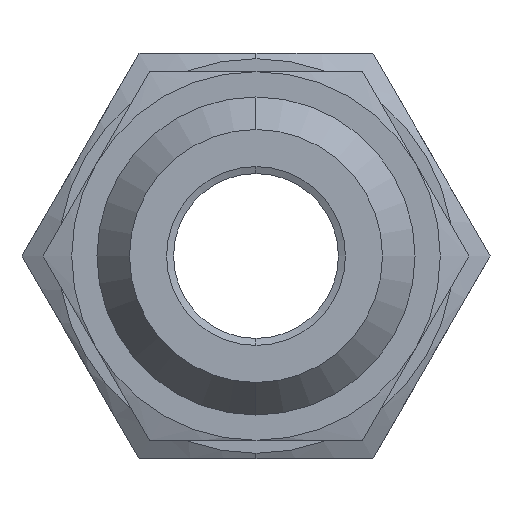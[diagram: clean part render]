
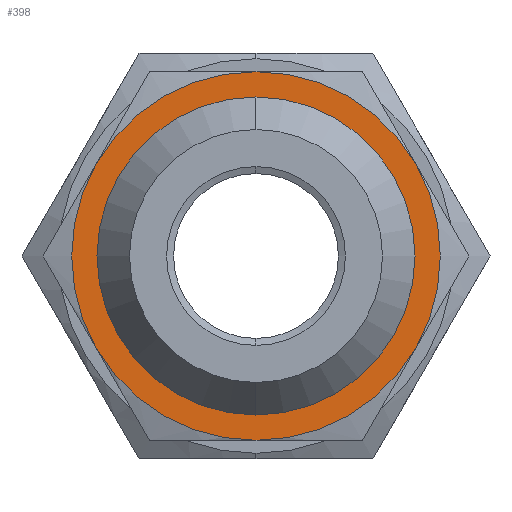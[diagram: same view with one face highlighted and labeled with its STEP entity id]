
A CAD part, left-side view. The second image highlights one B-rep face of the part: STEP entity #398.
In plain terms, the highlighted planar face has unit normal (-1, 0, 0).
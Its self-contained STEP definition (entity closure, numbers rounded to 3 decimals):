
#61 = VERTEX_POINT ( 'NONE', #772 ) ;
#78 = VERTEX_POINT ( 'NONE', #670 ) ;
#80 = EDGE_CURVE ( 'NONE', #78, #81, #728, .T. ) ;
#81 = VERTEX_POINT ( 'NONE', #723 ) ;
#192 = VERTEX_POINT ( 'NONE', #844 ) ;
#208 = VERTEX_POINT ( 'NONE', #1029 ) ;
#290 = VERTEX_POINT ( 'NONE', #1056 ) ;
#295 = VERTEX_POINT ( 'NONE', #1116 ) ;
#304 = VERTEX_POINT ( 'NONE', #1222 ) ;
#377 = EDGE_CURVE ( 'NONE', #290, #61, #1465, .T. ) ;
#382 = EDGE_CURVE ( 'NONE', #295, #192, #1460, .T. ) ;
#388 = EDGE_CURVE ( 'NONE', #304, #295, #1450, .T. ) ;
#398 = ADVANCED_FACE ( 'NONE', ( #1430, #1427 ), #1426, .F. ) ;
#399 = ORIENTED_EDGE ( 'NONE', *, *, #445, .F. ) ;
#400 = ORIENTED_EDGE ( 'NONE', *, *, #80, .F. ) ;
#401 = EDGE_LOOP ( 'NONE', ( #402, #403, #404, #405, #406, #407 ) ) ;
#402 = ORIENTED_EDGE ( 'NONE', *, *, #377, .T. ) ;
#403 = ORIENTED_EDGE ( 'NONE', *, *, #411, .T. ) ;
#404 = ORIENTED_EDGE ( 'NONE', *, *, #388, .T. ) ;
#405 = ORIENTED_EDGE ( 'NONE', *, *, #382, .T. ) ;
#406 = ORIENTED_EDGE ( 'NONE', *, *, #431, .T. ) ;
#407 = ORIENTED_EDGE ( 'NONE', *, *, #425, .T. ) ;
#411 = EDGE_CURVE ( 'NONE', #61, #304, #1425, .T. ) ;
#425 = EDGE_CURVE ( 'NONE', #208, #290, #1368, .T. ) ;
#431 = EDGE_CURVE ( 'NONE', #192, #208, #1357, .T. ) ;
#445 = EDGE_CURVE ( 'NONE', #81, #78, #1382, .T. ) ;
#446 = EDGE_LOOP ( 'NONE', ( #399, #400 ) ) ;
#670 = CARTESIAN_POINT ( 'NONE',  ( 0., 0., 6.85 ) ) ;
#723 = CARTESIAN_POINT ( 'NONE',  ( 0., 0., -6.85 ) ) ;
#724 = DIRECTION ( 'NONE',  ( 0., 0., -1. ) ) ;
#725 = DIRECTION ( 'NONE',  ( -1., 0., 0. ) ) ;
#726 = CARTESIAN_POINT ( 'NONE',  ( 0., 0., 0. ) ) ;
#727 = AXIS2_PLACEMENT_3D ( 'NONE', #726, #725, #724 ) ;
#728 = CIRCLE ( 'NONE', #727, 6.85 ) ;
#772 = CARTESIAN_POINT ( 'NONE',  ( 0., 0., -7.94 ) ) ;
#844 = CARTESIAN_POINT ( 'NONE',  ( 0., 0., 7.94 ) ) ;
#1029 = CARTESIAN_POINT ( 'NONE',  ( 0., 6.876, 3.97 ) ) ;
#1056 = CARTESIAN_POINT ( 'NONE',  ( 0., 6.876, -3.97 ) ) ;
#1116 = CARTESIAN_POINT ( 'NONE',  ( 0., -6.876, 3.97 ) ) ;
#1222 = CARTESIAN_POINT ( 'NONE',  ( 0., -6.876, -3.97 ) ) ;
#1307 = DIRECTION ( 'NONE',  ( 0., 0., -1. ) ) ;
#1308 = DIRECTION ( 'NONE',  ( -1., 0., 0. ) ) ;
#1349 = DIRECTION ( 'NONE',  ( 0., 0., 1. ) ) ;
#1350 = DIRECTION ( 'NONE',  ( -1., 0., 0. ) ) ;
#1351 = CARTESIAN_POINT ( 'NONE',  ( 0., 0., 0. ) ) ;
#1352 = AXIS2_PLACEMENT_3D ( 'NONE', #1351, #1350, #1349 ) ;
#1357 = CIRCLE ( 'NONE', #1352, 7.94 ) ;
#1360 = DIRECTION ( 'NONE',  ( 0., 0., 1. ) ) ;
#1361 = DIRECTION ( 'NONE',  ( -1., 0., 0. ) ) ;
#1362 = CARTESIAN_POINT ( 'NONE',  ( 0., 0., 0. ) ) ;
#1363 = AXIS2_PLACEMENT_3D ( 'NONE', #1362, #1361, #1360 ) ;
#1368 = CIRCLE ( 'NONE', #1363, 7.94 ) ;
#1376 = CARTESIAN_POINT ( 'NONE',  ( 0., 0., 0. ) ) ;
#1377 = AXIS2_PLACEMENT_3D ( 'NONE', #1376, #1308, #1307 ) ;
#1382 = CIRCLE ( 'NONE', #1377, 6.85 ) ;
#1417 = DIRECTION ( 'NONE',  ( 0., 0., 1. ) ) ;
#1418 = DIRECTION ( 'NONE',  ( -1., 0., 0. ) ) ;
#1419 = CARTESIAN_POINT ( 'NONE',  ( 0., 0., 0. ) ) ;
#1420 = AXIS2_PLACEMENT_3D ( 'NONE', #1419, #1418, #1417 ) ;
#1421 = DIRECTION ( 'NONE',  ( 0., 0., -1. ) ) ;
#1422 = DIRECTION ( 'NONE',  ( 1., 0., 0. ) ) ;
#1423 = CARTESIAN_POINT ( 'NONE',  ( 0., 9.168, 0. ) ) ;
#1424 = AXIS2_PLACEMENT_3D ( 'NONE', #1423, #1422, #1421 ) ;
#1425 = CIRCLE ( 'NONE', #1420, 7.94 ) ;
#1426 = PLANE ( 'NONE',  #1424 ) ;
#1427 = FACE_OUTER_BOUND ( 'NONE', #401, .T. ) ;
#1430 = FACE_BOUND ( 'NONE', #446, .T. ) ;
#1446 = DIRECTION ( 'NONE',  ( 0., 0., 1. ) ) ;
#1447 = DIRECTION ( 'NONE',  ( -1., 0., 0. ) ) ;
#1448 = CARTESIAN_POINT ( 'NONE',  ( 0., 0., 0. ) ) ;
#1449 = AXIS2_PLACEMENT_3D ( 'NONE', #1448, #1447, #1446 ) ;
#1450 = CIRCLE ( 'NONE', #1449, 7.94 ) ;
#1457 = DIRECTION ( 'NONE',  ( 0., 0., 1. ) ) ;
#1458 = DIRECTION ( 'NONE',  ( -1., 0., 0. ) ) ;
#1459 = AXIS2_PLACEMENT_3D ( 'NONE', #1466, #1458, #1457 ) ;
#1460 = CIRCLE ( 'NONE', #1459, 7.94 ) ;
#1461 = DIRECTION ( 'NONE',  ( 0., 0., 1. ) ) ;
#1462 = DIRECTION ( 'NONE',  ( -1., 0., 0. ) ) ;
#1463 = CARTESIAN_POINT ( 'NONE',  ( 0., 0., 0. ) ) ;
#1464 = AXIS2_PLACEMENT_3D ( 'NONE', #1463, #1462, #1461 ) ;
#1465 = CIRCLE ( 'NONE', #1464, 7.94 ) ;
#1466 = CARTESIAN_POINT ( 'NONE',  ( 0., 0., 0. ) ) ;
